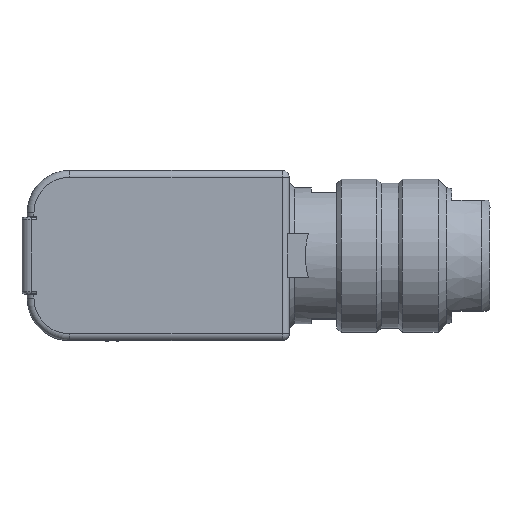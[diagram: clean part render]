
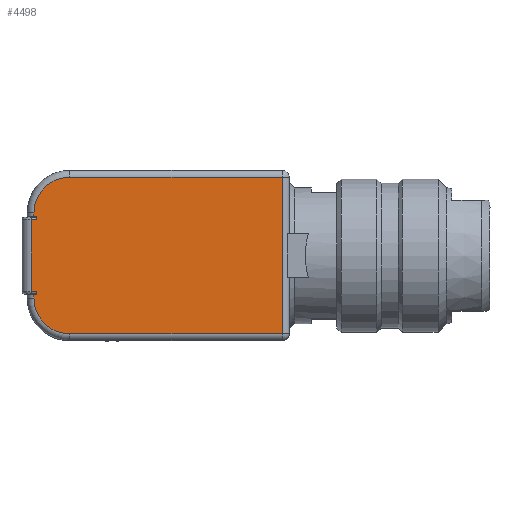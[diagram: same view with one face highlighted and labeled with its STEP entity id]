
A CAD part, top view. The second image highlights one B-rep face of the part: STEP entity #4498.
In plain terms, the highlighted planar face has unit normal (0, 0, 1).
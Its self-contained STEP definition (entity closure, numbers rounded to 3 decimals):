
#801=FACE_OUTER_BOUND('',#5817,.T.);
#2146=LINE('',#24360,#3018);
#2147=LINE('',#24362,#3019);
#2148=LINE('',#24366,#3020);
#2149=LINE('',#24368,#3021);
#2150=LINE('',#24370,#3022);
#2151=LINE('',#24372,#3023);
#2152=LINE('',#24374,#3024);
#2153=LINE('',#24376,#3025);
#2154=LINE('',#24378,#3026);
#2155=LINE('',#24380,#3027);
#2156=LINE('',#24382,#3028);
#2157=LINE('',#24386,#3029);
#3018=VECTOR('',#18867,1.);
#3019=VECTOR('',#18868,1.);
#3020=VECTOR('',#18871,1.);
#3021=VECTOR('',#18872,1.);
#3022=VECTOR('',#18873,1.);
#3023=VECTOR('',#18874,1.);
#3024=VECTOR('',#18875,1.);
#3025=VECTOR('',#18876,1.);
#3026=VECTOR('',#18877,1.);
#3027=VECTOR('',#18878,1.);
#3028=VECTOR('',#18879,1.);
#3029=VECTOR('',#18882,1.);
#3776=PLANE('',#15947);
#4498=ADVANCED_FACE('',(#801),#3776,.T.);
#5817=EDGE_LOOP('',(#8531,#8532,#8533,#8534,#8535,#8536,#8537,#8538,#8539,
#8540,#8541,#8542,#8543,#8544));
#8531=ORIENTED_EDGE('',*,*,#13217,.F.);
#8532=ORIENTED_EDGE('',*,*,#13218,.T.);
#8533=ORIENTED_EDGE('',*,*,#13219,.T.);
#8534=ORIENTED_EDGE('',*,*,#13220,.T.);
#8535=ORIENTED_EDGE('',*,*,#13221,.T.);
#8536=ORIENTED_EDGE('',*,*,#13222,.F.);
#8537=ORIENTED_EDGE('',*,*,#13223,.T.);
#8538=ORIENTED_EDGE('',*,*,#13224,.T.);
#8539=ORIENTED_EDGE('',*,*,#13225,.T.);
#8540=ORIENTED_EDGE('',*,*,#13226,.F.);
#8541=ORIENTED_EDGE('',*,*,#13227,.F.);
#8542=ORIENTED_EDGE('',*,*,#13228,.T.);
#8543=ORIENTED_EDGE('',*,*,#13229,.T.);
#8544=ORIENTED_EDGE('',*,*,#13230,.T.);
#11369=VERTEX_POINT('',#24354);
#11372=VERTEX_POINT('',#24361);
#11373=VERTEX_POINT('',#24363);
#11374=VERTEX_POINT('',#24365);
#11375=VERTEX_POINT('',#24367);
#11376=VERTEX_POINT('',#24369);
#11377=VERTEX_POINT('',#24371);
#11378=VERTEX_POINT('',#24373);
#11379=VERTEX_POINT('',#24375);
#11380=VERTEX_POINT('',#24377);
#11381=VERTEX_POINT('',#24379);
#11382=VERTEX_POINT('',#24381);
#11383=VERTEX_POINT('',#24383);
#11384=VERTEX_POINT('',#24385);
#13217=EDGE_CURVE('',#11372,#11369,#2146,.T.);
#13218=EDGE_CURVE('',#11372,#11373,#2147,.T.);
#13219=EDGE_CURVE('',#11373,#11374,#14716,.T.);
#13220=EDGE_CURVE('',#11374,#11375,#2148,.T.);
#13221=EDGE_CURVE('',#11375,#11376,#2149,.T.);
#13222=EDGE_CURVE('',#11377,#11376,#2150,.T.);
#13223=EDGE_CURVE('',#11377,#11378,#2151,.T.);
#13224=EDGE_CURVE('',#11378,#11379,#2152,.T.);
#13225=EDGE_CURVE('',#11379,#11380,#2153,.T.);
#13226=EDGE_CURVE('',#11381,#11380,#2154,.T.);
#13227=EDGE_CURVE('',#11382,#11381,#2155,.T.);
#13228=EDGE_CURVE('',#11382,#11383,#2156,.T.);
#13229=EDGE_CURVE('',#11383,#11384,#14717,.T.);
#13230=EDGE_CURVE('',#11384,#11369,#2157,.T.);
#14716=CIRCLE('',#15945,4.2);
#14717=CIRCLE('',#15946,4.2);
#15945=AXIS2_PLACEMENT_3D('',#24364,#18869,#18870);
#15946=AXIS2_PLACEMENT_3D('',#24384,#18880,#18881);
#15947=AXIS2_PLACEMENT_3D('',#24387,#18883,#18884);
#18867=DIRECTION('',(0.,-1.,0.));
#18868=DIRECTION('',(-1.,0.,0.));
#18869=DIRECTION('',(0.,0.,1.));
#18870=DIRECTION('',(-1.,0.,0.));
#18871=DIRECTION('',(0.,-1.,0.));
#18872=DIRECTION('',(1.,0.,0.));
#18873=DIRECTION('',(0.,1.,0.));
#18874=DIRECTION('',(-1.,0.,0.));
#18875=DIRECTION('',(0.,-1.,0.));
#18876=DIRECTION('',(1.,0.,0.));
#18877=DIRECTION('',(0.,1.,0.));
#18878=DIRECTION('',(1.,0.,0.));
#18879=DIRECTION('',(0.,-1.,0.));
#18880=DIRECTION('',(0.,0.,1.));
#18881=DIRECTION('',(-1.,0.,0.));
#18882=DIRECTION('',(1.,0.,0.));
#18883=DIRECTION('',(0.,0.,1.));
#18884=DIRECTION('',(1.,0.,0.));
#24354=CARTESIAN_POINT('',(-0.8,-9.2,10.7));
#24360=CARTESIAN_POINT('',(-0.8,2.55,10.7));
#24361=CARTESIAN_POINT('',(-0.8,9.2,10.7));
#24362=CARTESIAN_POINT('',(-10.4,9.2,10.7));
#24363=CARTESIAN_POINT('',(-25.8,9.2,10.7));
#24364=CARTESIAN_POINT('',(-25.8,5.,10.7));
#24365=CARTESIAN_POINT('',(-30.,5.,10.7));
#24366=CARTESIAN_POINT('',(-30.,-5.,10.7));
#24367=CARTESIAN_POINT('',(-30.,4.6,10.7));
#24368=CARTESIAN_POINT('',(-29.7,4.6,10.7));
#24369=CARTESIAN_POINT('',(-29.7,4.6,10.7));
#24370=CARTESIAN_POINT('',(-29.7,-4.6,10.7));
#24371=CARTESIAN_POINT('',(-29.7,4.2,10.7));
#24372=CARTESIAN_POINT('',(-29.7,4.2,10.7));
#24373=CARTESIAN_POINT('',(-30.3,4.2,10.7));
#24374=CARTESIAN_POINT('',(-30.3,-4.5,10.7));
#24375=CARTESIAN_POINT('',(-30.3,-4.2,10.7));
#24376=CARTESIAN_POINT('',(-29.7,-4.2,10.7));
#24377=CARTESIAN_POINT('',(-29.7,-4.2,10.7));
#24378=CARTESIAN_POINT('',(-29.7,-4.6,10.7));
#24379=CARTESIAN_POINT('',(-29.7,-4.6,10.7));
#24380=CARTESIAN_POINT('',(-29.7,-4.6,10.7));
#24381=CARTESIAN_POINT('',(-30.,-4.6,10.7));
#24382=CARTESIAN_POINT('',(-30.,-5.,10.7));
#24383=CARTESIAN_POINT('',(-30.,-5.,10.7));
#24384=CARTESIAN_POINT('',(-25.8,-5.,10.7));
#24385=CARTESIAN_POINT('',(-25.8,-9.2,10.7));
#24386=CARTESIAN_POINT('',(-10.4,-9.2,10.7));
#24387=CARTESIAN_POINT('',(-10.4,-5.,10.7));
